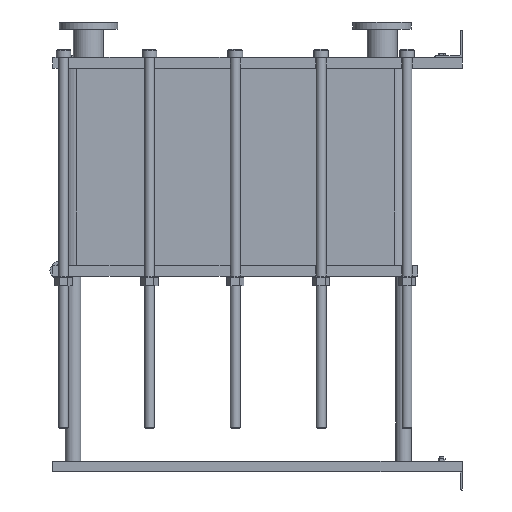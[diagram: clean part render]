
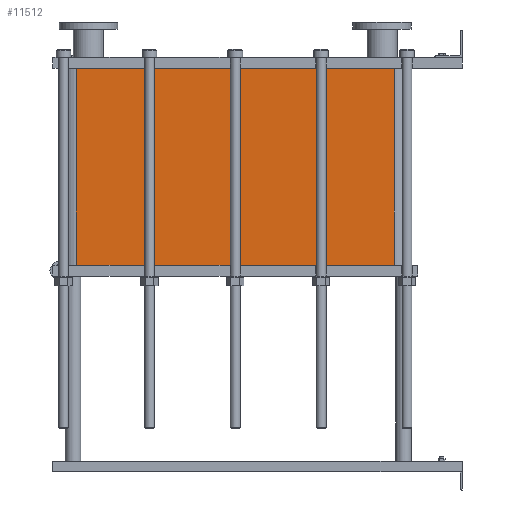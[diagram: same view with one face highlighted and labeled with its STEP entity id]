
A CAD part, left-side view. The second image highlights one B-rep face of the part: STEP entity #11512.
In plain terms, the highlighted planar face has unit normal (-1, 0, 0).
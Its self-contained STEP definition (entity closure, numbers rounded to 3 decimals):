
#1129=LINE('',#23232,#2102);
#1130=LINE('',#23236,#2103);
#1131=LINE('',#23238,#2104);
#1132=LINE('',#23239,#2105);
#2102=VECTOR('',#15887,10.);
#2103=VECTOR('',#15892,10.);
#2104=VECTOR('',#15893,10.);
#2105=VECTOR('',#15894,10.);
#3267=FACE_OUTER_BOUND('',#4093,.T.);
#4093=EDGE_LOOP('',(#10103,#10104,#10105,#10106));
#5642=VERTEX_POINT('',#23229);
#5643=VERTEX_POINT('',#23231);
#5644=VERTEX_POINT('',#23235);
#5645=VERTEX_POINT('',#23237);
#7159=EDGE_CURVE('',#5643,#5642,#1129,.T.);
#7161=EDGE_CURVE('',#5642,#5644,#1130,.T.);
#7162=EDGE_CURVE('',#5645,#5644,#1131,.T.);
#7163=EDGE_CURVE('',#5645,#5643,#1132,.T.);
#10103=ORIENTED_EDGE('',*,*,#7161,.T.);
#10104=ORIENTED_EDGE('',*,*,#7162,.F.);
#10105=ORIENTED_EDGE('',*,*,#7163,.T.);
#10106=ORIENTED_EDGE('',*,*,#7159,.T.);
#10857=PLANE('',#12751);
#11512=ADVANCED_FACE('',(#3267),#10857,.T.);
#12751=AXIS2_PLACEMENT_3D('',#23234,#15890,#15891);
#15887=DIRECTION('',(0.,0.,-1.));
#15890=DIRECTION('center_axis',(-1.,0.,0.));
#15891=DIRECTION('ref_axis',(0.,1.,0.));
#15892=DIRECTION('',(0.,-1.,0.));
#15893=DIRECTION('',(0.,0.,-1.));
#15894=DIRECTION('',(0.,1.,0.));
#23229=CARTESIAN_POINT('',(-200.,1414.,-721.05));
#23231=CARTESIAN_POINT('',(-200.,1414.,0.));
#23232=CARTESIAN_POINT('',(-200.,1414.,0.));
#23234=CARTESIAN_POINT('Origin',(-200.,248.,0.));
#23235=CARTESIAN_POINT('',(-200.,248.,-721.05));
#23236=CARTESIAN_POINT('',(-200.,539.5,-721.05));
#23237=CARTESIAN_POINT('',(-200.,248.,0.));
#23238=CARTESIAN_POINT('',(-200.,248.,0.));
#23239=CARTESIAN_POINT('',(-200.,248.,0.));
